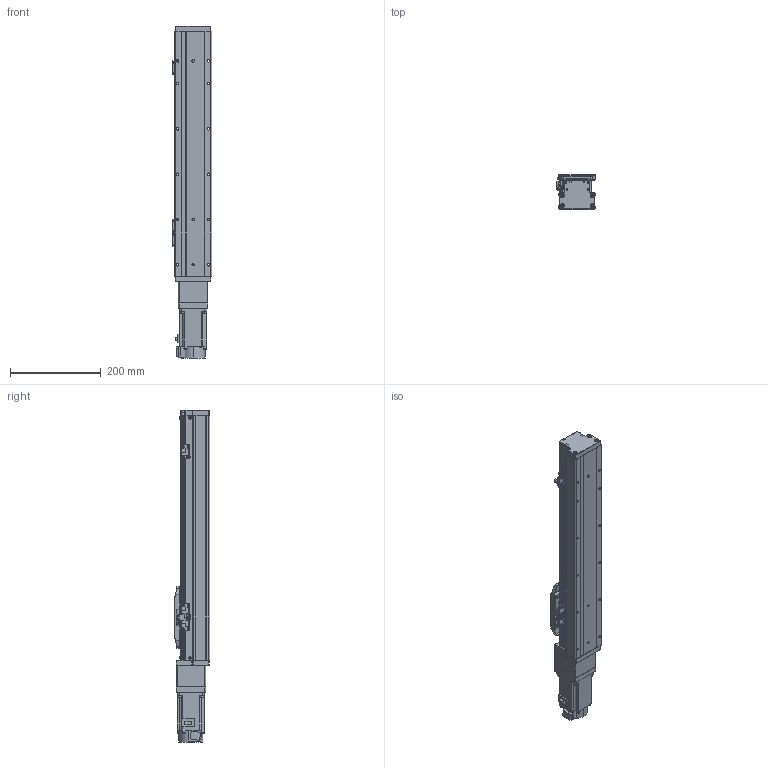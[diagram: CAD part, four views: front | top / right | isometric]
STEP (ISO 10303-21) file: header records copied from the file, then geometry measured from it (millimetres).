
FILE_DESCRIPTION (( 'STEP AP203' ), '1' );
FILE_NAME ('GTH8-350-BC-M20-C4.step', '2022-09-23T00:54:36', ( '微软用户' ), ( '微软中国' ), 'SwSTEP 2.0', 'SolidWorks 2020', '' );
FILE_SCHEMA (( 'CONFIG_CONTROL_DESIGN' ));
Length unit declared in the file: millimetre
Products named in the file (19): CTHA86-006-1_CTHA86-006-2; GTH80-003; GBT 70.1-M4×16; CTHA86-013; GTH80-004; GTH80-028; CTHA86-027; GTH80-006; GTH50-024; hg-kn43j_-s100_; GTH80-013; GTH50-023; GTH8-350-BC-M20-C4; GBT 70.3-M3℅6; GBT96.1-2002 3×0.8; GTH80-022; BTH-M3X5X6; GTH80-001_350; GBT 70.1-M3℅6
Assembly tree (60 placements, depth 2):
  GTH8-350-BC-M20-C4
    GTH80-001_350
    GTH80-003
    GTH80-004
    GTH80-006
    GTH80-013
    GBT 70.3-M3℅6  x6
    GTH80-022
    GBT 70.1-M3℅6  x14
    GBT 70.1-M4×16  x8
    GTH80-028  x2
    GTH50-024  x3
    GTH50-023  x3
    GBT96.1-2002 3×0.8  x6
    BTH-M3X5X6  x8
    CTHA86-006-1_CTHA86-006-2
    CTHA86-013
    CTHA86-027
    hg-kn43j_-s100_
Bounding box: 86.9 x 78 x 732.7 mm (x, y, z)
Volume: 3148220.7 mm3; surface area: 364523.3 mm2
Topology: 62 solids, 62 shells, 2223 faces, 5104 edges, 3107 vertices
Faces by surface type: plane 1173, cylinder 593, cone 285, torus 162, sphere 8, bspline 2
Entity records: 38520 total; most frequent: CARTESIAN_POINT 6359, DIRECTION 6310, ORIENTED_EDGE 5798, EDGE_CURVE 2899, AXIS2_PLACEMENT_3D 2200, VECTOR 1910, LINE 1910, VERTEX_POINT 1820
